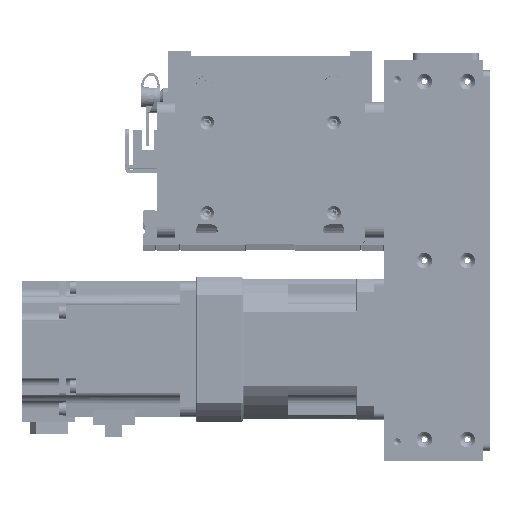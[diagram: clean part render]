
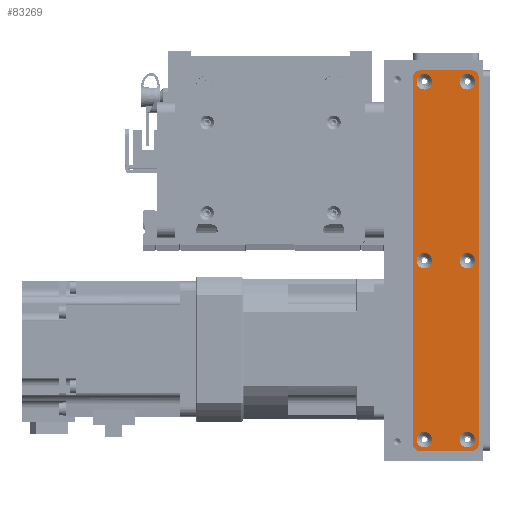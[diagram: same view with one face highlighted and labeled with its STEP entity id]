
A CAD part, top view. The second image highlights one B-rep face of the part: STEP entity #83269.
In plain terms, the highlighted planar face has unit normal (0, 0, 1).
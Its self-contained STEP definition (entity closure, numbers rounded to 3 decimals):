
#3075=FACE_BOUND('',#12214,.T.);
#3076=FACE_BOUND('',#12215,.T.);
#3077=FACE_BOUND('',#12216,.T.);
#3078=FACE_BOUND('',#12217,.T.);
#3079=FACE_BOUND('',#12218,.T.);
#3080=FACE_BOUND('',#12219,.T.);
#7223=FACE_OUTER_BOUND('',#12213,.T.);
#12213=EDGE_LOOP('',(#74872,#74873,#74874,#74875,#74876,#74877,#74878,#74879));
#12214=EDGE_LOOP('',(#74880));
#12215=EDGE_LOOP('',(#74881));
#12216=EDGE_LOOP('',(#74882));
#12217=EDGE_LOOP('',(#74883));
#12218=EDGE_LOOP('',(#74884));
#12219=EDGE_LOOP('',(#74885));
#14576=CIRCLE('',#90503,3.45);
#14579=CIRCLE('',#90508,3.45);
#14582=CIRCLE('',#90513,3.45);
#14585=CIRCLE('',#90518,3.45);
#14588=CIRCLE('',#90523,3.45);
#14591=CIRCLE('',#90528,3.45);
#14598=CIRCLE('',#90538,3.);
#14599=CIRCLE('',#90541,3.);
#14600=CIRCLE('',#90544,3.);
#14601=CIRCLE('',#90547,3.);
#23488=LINE('',#140054,#32483);
#23491=LINE('',#140062,#32486);
#23494=LINE('',#140070,#32489);
#23497=LINE('',#140077,#32492);
#32483=VECTOR('',#112418,10.);
#32486=VECTOR('',#112427,10.);
#32489=VECTOR('',#112436,10.);
#32492=VECTOR('',#112445,10.);
#40230=VERTEX_POINT('',#139970);
#40233=VERTEX_POINT('',#139980);
#40236=VERTEX_POINT('',#139990);
#40239=VERTEX_POINT('',#140000);
#40242=VERTEX_POINT('',#140010);
#40245=VERTEX_POINT('',#140020);
#40256=VERTEX_POINT('',#140047);
#40257=VERTEX_POINT('',#140049);
#40258=VERTEX_POINT('',#140053);
#40259=VERTEX_POINT('',#140057);
#40260=VERTEX_POINT('',#140061);
#40261=VERTEX_POINT('',#140065);
#40262=VERTEX_POINT('',#140069);
#40263=VERTEX_POINT('',#140073);
#51827=EDGE_CURVE('',#40230,#40230,#14576,.T.);
#51832=EDGE_CURVE('',#40233,#40233,#14579,.T.);
#51837=EDGE_CURVE('',#40236,#40236,#14582,.T.);
#51842=EDGE_CURVE('',#40239,#40239,#14585,.T.);
#51847=EDGE_CURVE('',#40242,#40242,#14588,.T.);
#51852=EDGE_CURVE('',#40245,#40245,#14591,.T.);
#51866=EDGE_CURVE('',#40257,#40256,#14598,.T.);
#51868=EDGE_CURVE('',#40258,#40257,#23488,.T.);
#51870=EDGE_CURVE('',#40259,#40258,#14599,.T.);
#51872=EDGE_CURVE('',#40260,#40259,#23491,.T.);
#51874=EDGE_CURVE('',#40261,#40260,#14600,.T.);
#51876=EDGE_CURVE('',#40262,#40261,#23494,.T.);
#51878=EDGE_CURVE('',#40263,#40262,#14601,.T.);
#51880=EDGE_CURVE('',#40256,#40263,#23497,.T.);
#74872=ORIENTED_EDGE('',*,*,#51880,.T.);
#74873=ORIENTED_EDGE('',*,*,#51878,.T.);
#74874=ORIENTED_EDGE('',*,*,#51876,.T.);
#74875=ORIENTED_EDGE('',*,*,#51874,.T.);
#74876=ORIENTED_EDGE('',*,*,#51872,.T.);
#74877=ORIENTED_EDGE('',*,*,#51870,.T.);
#74878=ORIENTED_EDGE('',*,*,#51868,.T.);
#74879=ORIENTED_EDGE('',*,*,#51866,.T.);
#74880=ORIENTED_EDGE('',*,*,#51827,.T.);
#74881=ORIENTED_EDGE('',*,*,#51832,.T.);
#74882=ORIENTED_EDGE('',*,*,#51837,.T.);
#74883=ORIENTED_EDGE('',*,*,#51842,.T.);
#74884=ORIENTED_EDGE('',*,*,#51847,.T.);
#74885=ORIENTED_EDGE('',*,*,#51852,.T.);
#79065=PLANE('',#90549);
#83269=ADVANCED_FACE('',(#7223,#3075,#3076,#3077,#3078,#3079,#3080),#79065,
 .T.);
#90503=AXIS2_PLACEMENT_3D('',#139971,#112326,#112327);
#90508=AXIS2_PLACEMENT_3D('',#139981,#112338,#112339);
#90513=AXIS2_PLACEMENT_3D('',#139991,#112350,#112351);
#90518=AXIS2_PLACEMENT_3D('',#140001,#112362,#112363);
#90523=AXIS2_PLACEMENT_3D('',#140011,#112374,#112375);
#90528=AXIS2_PLACEMENT_3D('',#140021,#112386,#112387);
#90538=AXIS2_PLACEMENT_3D('',#140050,#112413,#112414);
#90541=AXIS2_PLACEMENT_3D('',#140058,#112422,#112423);
#90544=AXIS2_PLACEMENT_3D('',#140066,#112431,#112432);
#90547=AXIS2_PLACEMENT_3D('',#140074,#112440,#112441);
#90549=AXIS2_PLACEMENT_3D('',#140078,#112446,#112447);
#112326=DIRECTION('center_axis',(0.,0.,-1.));
#112327=DIRECTION('ref_axis',(1.,0.,0.));
#112338=DIRECTION('center_axis',(0.,0.,-1.));
#112339=DIRECTION('ref_axis',(1.,0.,0.));
#112350=DIRECTION('center_axis',(0.,0.,-1.));
#112351=DIRECTION('ref_axis',(1.,0.,0.));
#112362=DIRECTION('center_axis',(0.,0.,-1.));
#112363=DIRECTION('ref_axis',(1.,0.,0.));
#112374=DIRECTION('center_axis',(0.,0.,-1.));
#112375=DIRECTION('ref_axis',(1.,0.,0.));
#112386=DIRECTION('center_axis',(0.,0.,-1.));
#112387=DIRECTION('ref_axis',(1.,0.,0.));
#112413=DIRECTION('center_axis',(0.,0.,1.));
#112414=DIRECTION('ref_axis',(-1.,0.,0.));
#112418=DIRECTION('',(0.,1.,0.));
#112422=DIRECTION('center_axis',(0.,0.,1.));
#112423=DIRECTION('ref_axis',(0.,1.,0.));
#112427=DIRECTION('',(1.,0.,0.));
#112431=DIRECTION('center_axis',(0.,0.,1.));
#112432=DIRECTION('ref_axis',(1.,0.,0.));
#112436=DIRECTION('',(0.,-1.,0.));
#112440=DIRECTION('center_axis',(0.,0.,1.));
#112441=DIRECTION('ref_axis',(0.,-1.,0.));
#112445=DIRECTION('',(-1.,0.,0.));
#112446=DIRECTION('center_axis',(0.,0.,1.));
#112447=DIRECTION('ref_axis',(1.,0.,0.));
#139970=CARTESIAN_POINT('',(-3.45,9.5,1.5));
#139971=CARTESIAN_POINT('Origin',(0.,9.5,1.5));
#139980=CARTESIAN_POINT('',(75.55,-9.5,1.5));
#139981=CARTESIAN_POINT('Origin',(79.,-9.5,1.5));
#139990=CARTESIAN_POINT('',(-82.45,9.5,1.5));
#139991=CARTESIAN_POINT('Origin',(-79.,9.5,1.5));
#140000=CARTESIAN_POINT('',(75.55,9.5,1.5));
#140001=CARTESIAN_POINT('Origin',(79.,9.5,1.5));
#140010=CARTESIAN_POINT('',(-82.45,-9.5,1.5));
#140011=CARTESIAN_POINT('Origin',(-79.,-9.5,1.5));
#140020=CARTESIAN_POINT('',(-3.45,-9.5,1.5));
#140021=CARTESIAN_POINT('Origin',(0.,-9.5,1.5));
#140047=CARTESIAN_POINT('',(81.,14.5,1.5));
#140049=CARTESIAN_POINT('',(84.,11.5,1.5));
#140050=CARTESIAN_POINT('Origin',(81.,11.5,1.5));
#140053=CARTESIAN_POINT('',(84.,-11.5,1.5));
#140054=CARTESIAN_POINT('',(84.,11.5,1.5));
#140057=CARTESIAN_POINT('',(81.,-14.5,1.5));
#140058=CARTESIAN_POINT('Origin',(81.,-11.5,1.5));
#140061=CARTESIAN_POINT('',(-81.,-14.5,1.5));
#140062=CARTESIAN_POINT('',(81.,-14.5,1.5));
#140065=CARTESIAN_POINT('',(-84.,-11.5,1.5));
#140066=CARTESIAN_POINT('Origin',(-81.,-11.5,1.5));
#140069=CARTESIAN_POINT('',(-84.,11.5,1.5));
#140070=CARTESIAN_POINT('',(-84.,-11.5,1.5));
#140073=CARTESIAN_POINT('',(-81.,14.5,1.5));
#140074=CARTESIAN_POINT('Origin',(-81.,11.5,1.5));
#140077=CARTESIAN_POINT('',(-81.,14.5,1.5));
#140078=CARTESIAN_POINT('Origin',(0.,0.,
1.5));
